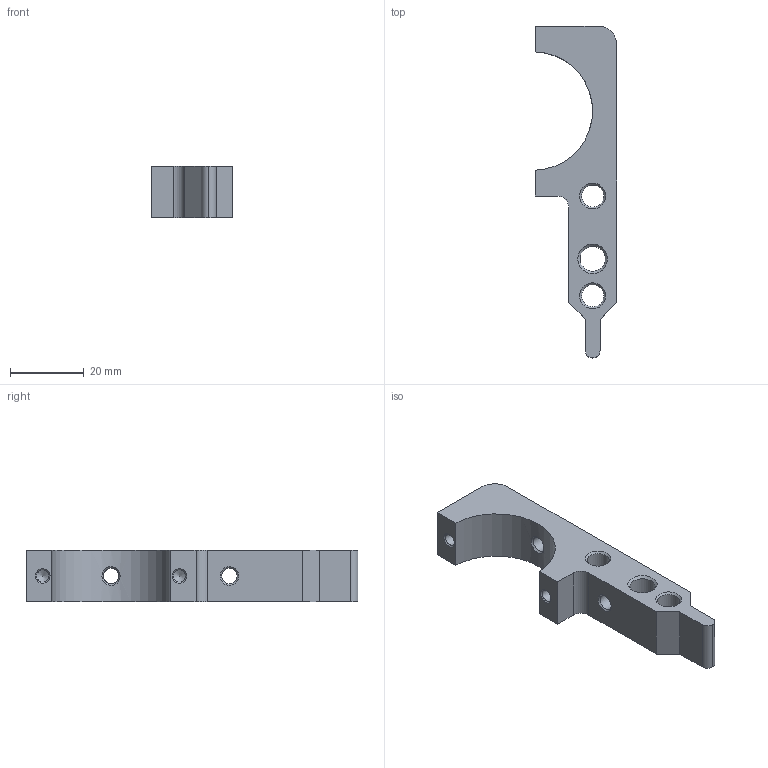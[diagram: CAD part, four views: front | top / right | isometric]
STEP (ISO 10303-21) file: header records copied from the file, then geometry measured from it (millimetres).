
FILE_DESCRIPTION(/* description */ (''),/* implementation_level */ '2;1');
FILE_NAME(/* name */ 'ASSY_STAVE_ONWHEELS_04.stp',/* time_stamp */ '2017-12-06T14:00:09+01:00',/* author */ (''),/* organization */ (''),/* preprocessor_version */ 'ST-DEVELOPER v16',/* originating_system */ 'SIEMENS PLM Software NX 10.0',/* authorisation */ '');
FILE_SCHEMA (('AP203_CONFIGURATION_CONTROLLED_3D_DESIGN_OF_MECHANICAL_PARTS_AND_ASSEMBLIES_MIM_LF { 1 0 10303 403 2 1 2}'));
Length unit declared in the file: millimetre
Products named in the file (1): turc1DB80072j4if
Bounding box: 22 x 89.8 x 14 mm (x, y, z)
Volume: 13164.4 mm3; surface area: 6521.9 mm2
Topology: 1 solids, 1 shells, 38 faces, 108 edges, 72 vertices
Faces by surface type: cone 13, plane 12, cylinder 12, bspline 1
Full cylindrical faces by diameter (mm): 3.3 x2, 4.2 x2, 6 x2, 6.8 x1
Entity records: 1317 total; most frequent: CARTESIAN_POINT 323, DIRECTION 199, ORIENTED_EDGE 144, AXIS2_PLACEMENT_3D 82, EDGE_CURVE 72, EDGE_LOOP 71, FACE_BOUND 63, VERTEX_POINT 59
